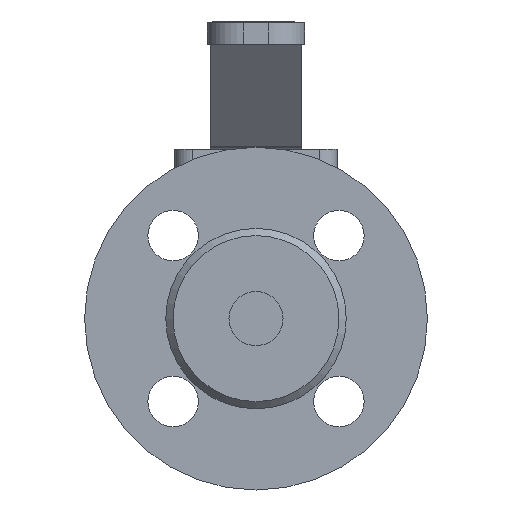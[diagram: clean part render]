
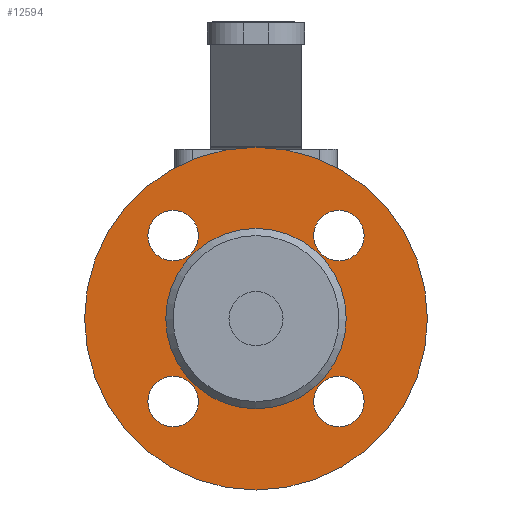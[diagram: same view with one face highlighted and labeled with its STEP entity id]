
A CAD part, left-side view. The second image highlights one B-rep face of the part: STEP entity #12594.
In plain terms, the highlighted planar face has unit normal (-1, 0, 0).
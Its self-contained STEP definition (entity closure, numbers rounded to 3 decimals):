
#12594=ADVANCED_FACE('',(#36591,#36593,#36595,#36597,#36599,#36601),#36603,.F.);
#36591=FACE_BOUND('',#36592,.T.);
#36592=EDGE_LOOP('',(#57305));
#36593=FACE_BOUND('',#36594,.T.);
#36594=EDGE_LOOP('',(#57306));
#36595=FACE_BOUND('',#36596,.T.);
#36596=EDGE_LOOP('',(#57307));
#36597=FACE_BOUND('',#36598,.T.);
#36598=EDGE_LOOP('',(#57308));
#36599=FACE_BOUND('',#36600,.T.);
#36600=EDGE_LOOP('',(#57309));
#36601=FACE_BOUND('',#36602,.T.);
#36602=EDGE_LOOP('',(#57310));
#36603=PLANE('',#36604);
#36604=AXIS2_PLACEMENT_3D('',#36605,#36606,#36607);
#36605=CARTESIAN_POINT('',(8151.861,1244.628,47.5));
#36606=DIRECTION('',(1.,0.,0.));
#36607=DIRECTION('',(0.,0.,-1.));
#57305=ORIENTED_EDGE('',*,*,#70741,.T.);
#57306=ORIENTED_EDGE('',*,*,#70733,.F.);
#57307=ORIENTED_EDGE('',*,*,#70735,.F.);
#57308=ORIENTED_EDGE('',*,*,#70737,.F.);
#57309=ORIENTED_EDGE('',*,*,#70731,.F.);
#57310=ORIENTED_EDGE('',*,*,#70740,.F.);
#70731=EDGE_CURVE('',#83717,#83717,#83718,.T.);
#70733=EDGE_CURVE('',#83721,#83721,#83722,.T.);
#70735=EDGE_CURVE('',#83725,#83725,#83726,.T.);
#70737=EDGE_CURVE('',#83729,#83729,#83730,.T.);
#70740=EDGE_CURVE('',#83735,#83735,#83736,.T.);
#70741=EDGE_CURVE('',#83737,#83737,#83738,.T.);
#83717=VERTEX_POINT('',#110246);
#83718=CIRCLE('',#110247,7.);
#83721=VERTEX_POINT('',#110256);
#83722=CIRCLE('',#110257,7.);
#83725=VERTEX_POINT('',#110266);
#83726=CIRCLE('',#110267,7.);
#83729=VERTEX_POINT('',#110276);
#83730=CIRCLE('',#110277,7.);
#83735=VERTEX_POINT('',#110291);
#83736=CIRCLE('',#110292,25.);
#83737=VERTEX_POINT('',#110296);
#83738=CIRCLE('',#110297,47.5);
#110246=CARTESIAN_POINT('',(8151.861,1260.609,22.981));
#110247=AXIS2_PLACEMENT_3D('',#110248,#110249,#110250);
#110248=CARTESIAN_POINT('',(8151.861,1267.609,22.981));
#110249=DIRECTION('',(-1.,0.,0.));
#110250=DIRECTION('',(0.,-1.,0.));
#110256=CARTESIAN_POINT('',(8151.861,1214.647,-22.981));
#110257=AXIS2_PLACEMENT_3D('',#110258,#110259,#110260);
#110258=CARTESIAN_POINT('',(8151.861,1221.647,-22.981));
#110259=DIRECTION('',(-1.,0.,0.));
#110260=DIRECTION('',(0.,-1.,0.));
#110266=CARTESIAN_POINT('',(8151.861,1214.647,22.981));
#110267=AXIS2_PLACEMENT_3D('',#110268,#110269,#110270);
#110268=CARTESIAN_POINT('',(8151.861,1221.647,22.981));
#110269=DIRECTION('',(-1.,0.,0.));
#110270=DIRECTION('',(0.,-1.,0.));
#110276=CARTESIAN_POINT('',(8151.861,1260.609,-22.981));
#110277=AXIS2_PLACEMENT_3D('',#110278,#110279,#110280);
#110278=CARTESIAN_POINT('',(8151.861,1267.609,-22.981));
#110279=DIRECTION('',(-1.,0.,0.));
#110280=DIRECTION('',(0.,-1.,0.));
#110291=CARTESIAN_POINT('',(8151.861,1244.628,-25.));
#110292=AXIS2_PLACEMENT_3D('',#110293,#110294,#110295);
#110293=CARTESIAN_POINT('',(8151.861,1244.628,0.));
#110294=DIRECTION('',(-1.,0.,0.));
#110295=DIRECTION('',(0.,0.,1.));
#110296=CARTESIAN_POINT('',(8151.861,1244.628,-47.5));
#110297=AXIS2_PLACEMENT_3D('',#110298,#110299,#110300);
#110298=CARTESIAN_POINT('',(8151.861,1244.628,0.));
#110299=DIRECTION('',(-1.,0.,0.));
#110300=DIRECTION('',(0.,0.,1.));
